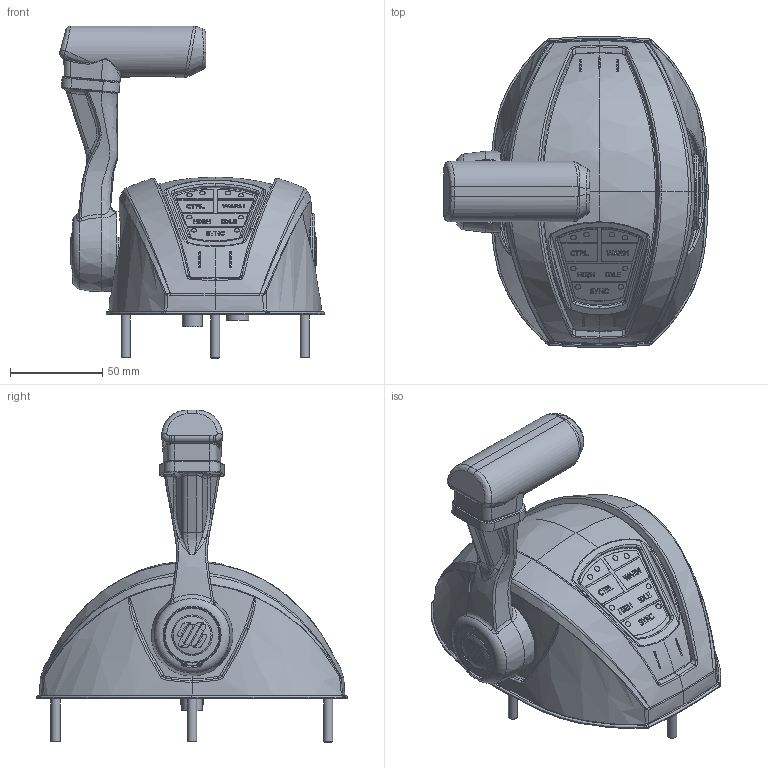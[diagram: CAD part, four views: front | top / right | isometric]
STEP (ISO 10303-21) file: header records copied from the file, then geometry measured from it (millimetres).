
FILE_DESCRIPTION(/* description */ (''),/* implementation_level */ '2;1');
FILE_NAME(/* name */ '\\SERVERB\DiskUltra\DisUlt3D\AREA LAVORO UTENTI\CAMPAGNA\PowerA2\3D SVUOTATI\complessivo unità di comando monomotore 27392PWAmII SVUOTATO .stp',/* time_stamp */ '2017-05-17T08:46:17+02:00',/* author */ ('Campagna'),/* organization */ (''),/* preprocessor_version */ 'ST-DEVELOPER v16.5',/* originating_system */ 'Autodesk Inventor 2017',/* authorisation */ '');
FILE_SCHEMA (('AUTOMOTIVE_DESIGN { 1 0 10303 214 3 1 1 }'));
Length unit declared in the file: millimetre
Products named in the file (28): 27392 unità di comando monomotore PWAmII (SVUOTATO PER COMMERCIAL
E); 25194; unità di comando powera2 ; 27360; piastra di fondo powera 2; permo PEM FHS M5 35 per piastra di fondo; colonnine celada; 24710; 24712   ; 24685; 27403 complessivo leva dx PowerA2; 30136; 23746 ; 23749 ; 28151; 24890; 23467; 24100; 24099; 27399; 27395; 27396; 19263 ; 27397; 23704; 28152; 24085 ; 27398
Assembly tree (36 placements, depth 3):
  27392 unità di comando monomotore PWAmII (SVUOTATO PER COMMERCIAL
E)
    25194
      unità di comando powera2 
    27360
      piastra di fondo powera 2
      permo PEM FHS M5 35 per piastra di fondo  x4
      colonnine celada  x4
    24710
    24712   
    24685
    27403 complessivo leva dx PowerA2
      30136
      23746 
      23749 
      28151
      28152
      24890
      23467
      24100
      24099
    27399
    27395
    27396  x2
    19263 
    27397  x2
    23704
    28152
    24085 
    27398
Bounding box: 143.66 x 168.78 x 180.3 mm (x, y, z)
Volume: 289569.9 mm3; surface area: 208959.8 mm2
Topology: 35 solids, 35 shells, 2017 faces, 5148 edges, 3260 vertices
Faces by surface type: plane 753, bspline 686, cylinder 325, cone 128, torus 79, sphere 46
Full cylindrical faces by diameter (mm): 1.5 x2, 1.569 x2, 2.459 x4, 3 x8, 3.242 x2, 3.5 x1, 3.88 x4, 4 x5, 4.1 x1, 4.2 x1, 4.5 x1, 5 x9, 5.3 x4, 6 x8, 6.5 x4, 8 x1, 8.4 x5, 10 x1, 11 x1, 12 x3, 14 x4, 15 x2, 18.744 x1, 18.9 x1, 19.8 x2, 20 x2, 22 x1, 24.5 x1, 25 x1, 30.3 x1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
Entity records: 96257 total; most frequent: CARTESIAN_POINT 53336, ORIENTED_EDGE 9298, DIRECTION 7448, EDGE_CURVE 4647, VERTEX_POINT 3026, AXIS2_PLACEMENT_3D 2785, EDGE_LOOP 2207, FACE_OUTER_BOUND 1902
